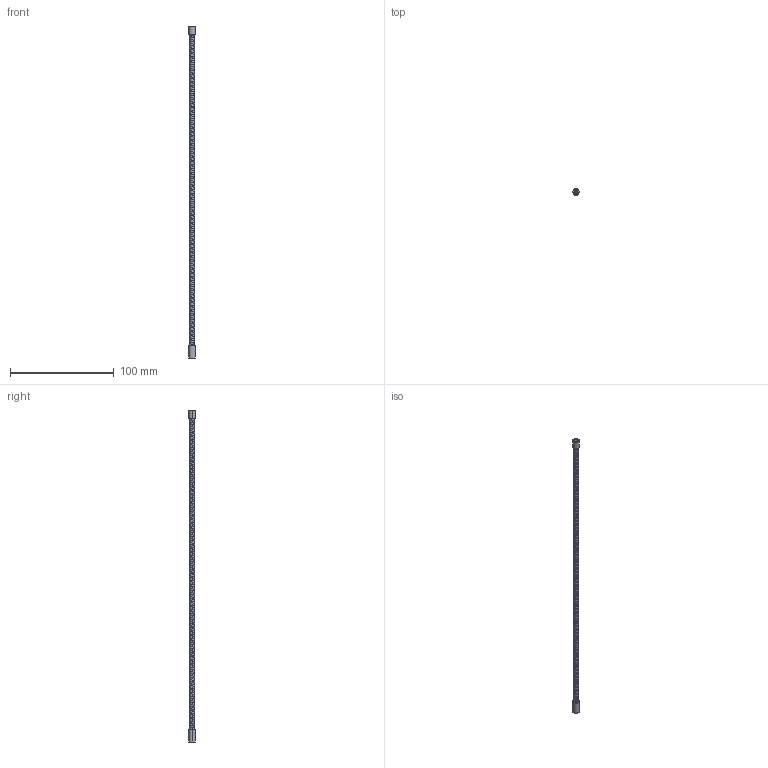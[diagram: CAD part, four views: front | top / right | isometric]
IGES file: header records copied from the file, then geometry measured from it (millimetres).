
Start section: SolidWorks IGES file using analytic representation for surfaces
Bounding box: 6 x 6 x 320 mm (x, y, z)
Surface area: 8316.5 mm2 (no closed solid volume)
Topology: 0 solids, 0 shells, 217 faces, 6786 edges, 6786 vertices
Faces by surface type: revolution 204, bspline 13
